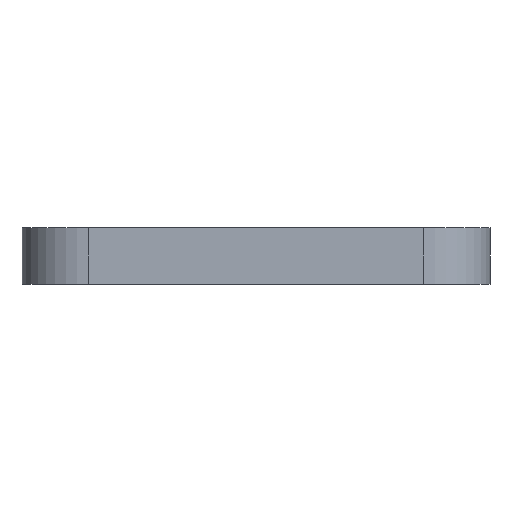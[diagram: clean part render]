
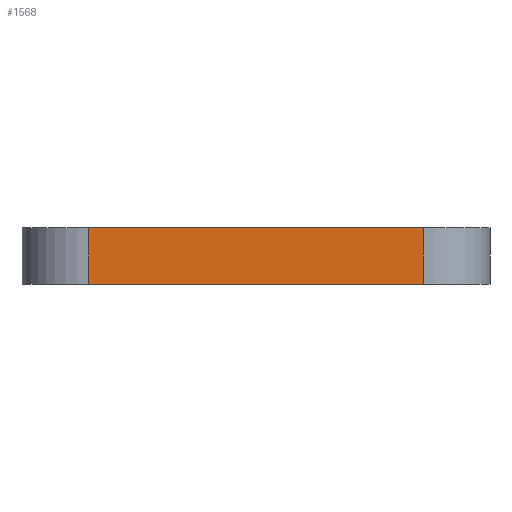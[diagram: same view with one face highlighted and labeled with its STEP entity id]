
A CAD part, left-side view. The second image highlights one B-rep face of the part: STEP entity #1568.
In plain terms, the highlighted planar face has unit normal (-1, 0, 0).
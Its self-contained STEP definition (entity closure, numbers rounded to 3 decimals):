
#32 = PLANE('',#33);
#33 = AXIS2_PLACEMENT_3D('',#34,#35,#36);
#34 = CARTESIAN_POINT('',(0.,0.,13.));
#35 = DIRECTION('',(0.,0.,1.));
#36 = DIRECTION('',(1.,0.,0.));
#57 = VERTEX_POINT('',#58);
#58 = CARTESIAN_POINT('',(-45.5,32.5,13.));
#73 = CYLINDRICAL_SURFACE('',#74,13.);
#74 = AXIS2_PLACEMENT_3D('',#75,#76,#77);
#75 = CARTESIAN_POINT('',(-32.5,32.5,13.));
#76 = DIRECTION('',(-0.,-0.,-1.));
#77 = DIRECTION('',(0.,1.,0.));
#85 = EDGE_CURVE('',#86,#57,#88,.T.);
#86 = VERTEX_POINT('',#87);
#87 = CARTESIAN_POINT('',(-45.5,-32.5,13.));
#88 = SURFACE_CURVE('',#89,(#93,#100),.PCURVE_S1.);
#89 = LINE('',#90,#91);
#90 = CARTESIAN_POINT('',(-45.5,-32.5,13.));
#91 = VECTOR('',#92,1.);
#92 = DIRECTION('',(0.,1.,0.));
#93 = PCURVE('',#32,#94);
#94 = DEFINITIONAL_REPRESENTATION('',(#95),#99);
#95 = LINE('',#96,#97);
#96 = CARTESIAN_POINT('',(-45.5,-32.5));
#97 = VECTOR('',#98,1.);
#98 = DIRECTION('',(0.,1.));
#99 = ( GEOMETRIC_REPRESENTATION_CONTEXT(2) 
PARAMETRIC_REPRESENTATION_CONTEXT() REPRESENTATION_CONTEXT('2D SPACE',''
  ) );
#100 = PCURVE('',#101,#106);
#101 = PLANE('',#102);
#102 = AXIS2_PLACEMENT_3D('',#103,#104,#105);
#103 = CARTESIAN_POINT('',(-45.5,32.5,13.));
#104 = DIRECTION('',(1.,0.,0.));
#105 = DIRECTION('',(0.,-1.,0.));
#106 = DEFINITIONAL_REPRESENTATION('',(#107),#111);
#107 = LINE('',#108,#109);
#108 = CARTESIAN_POINT('',(65.,0.));
#109 = VECTOR('',#110,1.);
#110 = DIRECTION('',(-1.,0.));
#111 = ( GEOMETRIC_REPRESENTATION_CONTEXT(2) 
PARAMETRIC_REPRESENTATION_CONTEXT() REPRESENTATION_CONTEXT('2D SPACE',''
  ) );
#130 = CYLINDRICAL_SURFACE('',#131,13.);
#131 = AXIS2_PLACEMENT_3D('',#132,#133,#134);
#132 = CARTESIAN_POINT('',(-32.5,-32.5,13.));
#133 = DIRECTION('',(-0.,-0.,-1.));
#134 = DIRECTION('',(-1.,0.,0.));
#1457 = PLANE('',#1458);
#1458 = AXIS2_PLACEMENT_3D('',#1459,#1460,#1461);
#1459 = CARTESIAN_POINT('',(0.,0.,24.));
#1460 = DIRECTION('',(0.,0.,1.));
#1461 = DIRECTION('',(1.,0.,0.));
#1475 = VERTEX_POINT('',#1476);
#1476 = CARTESIAN_POINT('',(-45.5,32.5,24.));
#1498 = EDGE_CURVE('',#1475,#57,#1499,.T.);
#1499 = SURFACE_CURVE('',#1500,(#1504,#1511),.PCURVE_S1.);
#1500 = LINE('',#1501,#1502);
#1501 = CARTESIAN_POINT('',(-45.5,32.5,24.));
#1502 = VECTOR('',#1503,1.);
#1503 = DIRECTION('',(0.,0.,-1.));
#1504 = PCURVE('',#73,#1505);
#1505 = DEFINITIONAL_REPRESENTATION('',(#1506),#1510);
#1506 = LINE('',#1507,#1508);
#1507 = CARTESIAN_POINT('',(-1.571,-11.));
#1508 = VECTOR('',#1509,1.);
#1509 = DIRECTION('',(0.,1.));
#1510 = ( GEOMETRIC_REPRESENTATION_CONTEXT(2) 
PARAMETRIC_REPRESENTATION_CONTEXT() REPRESENTATION_CONTEXT('2D SPACE',''
  ) );
#1511 = PCURVE('',#101,#1512);
#1512 = DEFINITIONAL_REPRESENTATION('',(#1513),#1517);
#1513 = LINE('',#1514,#1515);
#1514 = CARTESIAN_POINT('',(0.,-11.));
#1515 = VECTOR('',#1516,1.);
#1516 = DIRECTION('',(0.,1.));
#1517 = ( GEOMETRIC_REPRESENTATION_CONTEXT(2) 
PARAMETRIC_REPRESENTATION_CONTEXT() REPRESENTATION_CONTEXT('2D SPACE',''
  ) );
#1568 = ADVANCED_FACE('',(#1569),#101,.F.);
#1569 = FACE_BOUND('',#1570,.F.);
#1570 = EDGE_LOOP('',(#1571,#1594,#1595,#1596));
#1571 = ORIENTED_EDGE('',*,*,#1572,.T.);
#1572 = EDGE_CURVE('',#1573,#86,#1575,.T.);
#1573 = VERTEX_POINT('',#1574);
#1574 = CARTESIAN_POINT('',(-45.5,-32.5,24.));
#1575 = SURFACE_CURVE('',#1576,(#1580,#1587),.PCURVE_S1.);
#1576 = LINE('',#1577,#1578);
#1577 = CARTESIAN_POINT('',(-45.5,-32.5,24.));
#1578 = VECTOR('',#1579,1.);
#1579 = DIRECTION('',(0.,0.,-1.));
#1580 = PCURVE('',#101,#1581);
#1581 = DEFINITIONAL_REPRESENTATION('',(#1582),#1586);
#1582 = LINE('',#1583,#1584);
#1583 = CARTESIAN_POINT('',(65.,-11.));
#1584 = VECTOR('',#1585,1.);
#1585 = DIRECTION('',(0.,1.));
#1586 = ( GEOMETRIC_REPRESENTATION_CONTEXT(2) 
PARAMETRIC_REPRESENTATION_CONTEXT() REPRESENTATION_CONTEXT('2D SPACE',''
  ) );
#1587 = PCURVE('',#130,#1588);
#1588 = DEFINITIONAL_REPRESENTATION('',(#1589),#1593);
#1589 = LINE('',#1590,#1591);
#1590 = CARTESIAN_POINT('',(-0.,-11.));
#1591 = VECTOR('',#1592,1.);
#1592 = DIRECTION('',(0.,1.));
#1593 = ( GEOMETRIC_REPRESENTATION_CONTEXT(2) 
PARAMETRIC_REPRESENTATION_CONTEXT() REPRESENTATION_CONTEXT('2D SPACE',''
  ) );
#1594 = ORIENTED_EDGE('',*,*,#85,.T.);
#1595 = ORIENTED_EDGE('',*,*,#1498,.F.);
#1596 = ORIENTED_EDGE('',*,*,#1597,.F.);
#1597 = EDGE_CURVE('',#1573,#1475,#1598,.T.);
#1598 = SURFACE_CURVE('',#1599,(#1603,#1610),.PCURVE_S1.);
#1599 = LINE('',#1600,#1601);
#1600 = CARTESIAN_POINT('',(-45.5,-32.5,24.));
#1601 = VECTOR('',#1602,1.);
#1602 = DIRECTION('',(0.,1.,0.));
#1603 = PCURVE('',#101,#1604);
#1604 = DEFINITIONAL_REPRESENTATION('',(#1605),#1609);
#1605 = LINE('',#1606,#1607);
#1606 = CARTESIAN_POINT('',(65.,-11.));
#1607 = VECTOR('',#1608,1.);
#1608 = DIRECTION('',(-1.,0.));
#1609 = ( GEOMETRIC_REPRESENTATION_CONTEXT(2) 
PARAMETRIC_REPRESENTATION_CONTEXT() REPRESENTATION_CONTEXT('2D SPACE',''
  ) );
#1610 = PCURVE('',#1457,#1611);
#1611 = DEFINITIONAL_REPRESENTATION('',(#1612),#1616);
#1612 = LINE('',#1613,#1614);
#1613 = CARTESIAN_POINT('',(-45.5,-32.5));
#1614 = VECTOR('',#1615,1.);
#1615 = DIRECTION('',(0.,1.));
#1616 = ( GEOMETRIC_REPRESENTATION_CONTEXT(2) 
PARAMETRIC_REPRESENTATION_CONTEXT() REPRESENTATION_CONTEXT('2D SPACE',''
  ) );
